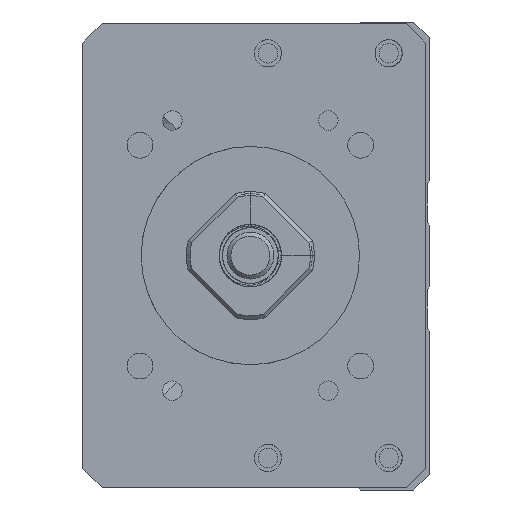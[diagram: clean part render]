
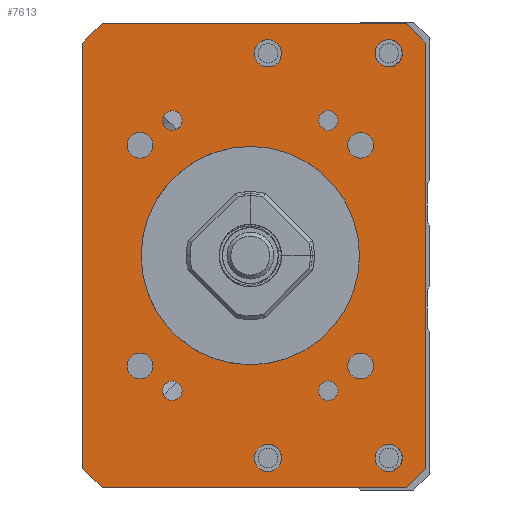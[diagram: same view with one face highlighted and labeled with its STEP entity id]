
A CAD part, left-side view. The second image highlights one B-rep face of the part: STEP entity #7613.
In plain terms, the highlighted planar face has unit normal (-1, 0, 0).
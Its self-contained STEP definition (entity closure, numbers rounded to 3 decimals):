
#4628=CIRCLE('',#15078,14.);
#4637=CIRCLE('',#15089,1.65);
#4638=CIRCLE('',#15090,1.65);
#4639=CIRCLE('',#15091,1.65);
#4640=CIRCLE('',#15092,1.65);
#4641=CIRCLE('',#15093,1.25);
#4642=CIRCLE('',#15094,1.75);
#4643=CIRCLE('',#15095,1.25);
#4644=CIRCLE('',#15096,1.75);
#4645=CIRCLE('',#15097,1.25);
#4646=CIRCLE('',#15098,1.75);
#4647=CIRCLE('',#15099,1.75);
#4648=CIRCLE('',#15100,1.25);
#5089=PLANE('',#15101);
#5990=LINE('',#19645,#6809);
#5992=LINE('',#19669,#6811);
#5993=LINE('',#19671,#6812);
#5994=LINE('',#19673,#6813);
#5995=LINE('',#19675,#6814);
#5996=LINE('',#19677,#6815);
#5997=LINE('',#19679,#6816);
#5998=LINE('',#19681,#6817);
#6809=VECTOR('',#16634,1.);
#6811=VECTOR('',#16658,1.);
#6812=VECTOR('',#16659,1.);
#6813=VECTOR('',#16660,1.);
#6814=VECTOR('',#16661,1.);
#6815=VECTOR('',#16662,1.);
#6816=VECTOR('',#16663,1.);
#6817=VECTOR('',#16664,1.);
#7613=ADVANCED_FACE('',(#8398,#8399,#8400,#8401,#8402,#8403,#8404,#8405,
#8406,#8407,#8408,#8409,#8410,#8411),#5089,.F.);
#8398=FACE_BOUND('',#8943,.T.);
#8399=FACE_BOUND('',#8944,.T.);
#8400=FACE_BOUND('',#8945,.T.);
#8401=FACE_BOUND('',#8946,.T.);
#8402=FACE_BOUND('',#8947,.T.);
#8403=FACE_BOUND('',#8948,.T.);
#8404=FACE_BOUND('',#8949,.T.);
#8405=FACE_BOUND('',#8950,.T.);
#8406=FACE_BOUND('',#8951,.T.);
#8407=FACE_BOUND('',#8952,.T.);
#8408=FACE_BOUND('',#8953,.T.);
#8409=FACE_BOUND('',#8954,.T.);
#8410=FACE_BOUND('',#8955,.T.);
#8411=FACE_BOUND('',#8956,.T.);
#8943=EDGE_LOOP('',(#10308));
#8944=EDGE_LOOP('',(#10309));
#8945=EDGE_LOOP('',(#10310));
#8946=EDGE_LOOP('',(#10311));
#8947=EDGE_LOOP('',(#10312));
#8948=EDGE_LOOP('',(#10313));
#8949=EDGE_LOOP('',(#10314));
#8950=EDGE_LOOP('',(#10315));
#8951=EDGE_LOOP('',(#10316));
#8952=EDGE_LOOP('',(#10317,#10318,#10319,#10320,#10321,#10322,#10323,#10324));
#8953=EDGE_LOOP('',(#10325));
#8954=EDGE_LOOP('',(#10326));
#8955=EDGE_LOOP('',(#10327));
#8956=EDGE_LOOP('',(#10328));
#10308=ORIENTED_EDGE('',*,*,#13687,.F.);
#10309=ORIENTED_EDGE('',*,*,#13688,.F.);
#10310=ORIENTED_EDGE('',*,*,#13689,.F.);
#10311=ORIENTED_EDGE('',*,*,#13690,.F.);
#10312=ORIENTED_EDGE('',*,*,#13691,.F.);
#10313=ORIENTED_EDGE('',*,*,#13692,.T.);
#10314=ORIENTED_EDGE('',*,*,#13693,.F.);
#10315=ORIENTED_EDGE('',*,*,#13694,.F.);
#10316=ORIENTED_EDGE('',*,*,#13695,.F.);
#10317=ORIENTED_EDGE('',*,*,#13684,.T.);
#10318=ORIENTED_EDGE('',*,*,#13696,.T.);
#10319=ORIENTED_EDGE('',*,*,#13697,.F.);
#10320=ORIENTED_EDGE('',*,*,#13698,.T.);
#10321=ORIENTED_EDGE('',*,*,#13699,.F.);
#10322=ORIENTED_EDGE('',*,*,#13700,.T.);
#10323=ORIENTED_EDGE('',*,*,#13701,.T.);
#10324=ORIENTED_EDGE('',*,*,#13702,.T.);
#10325=ORIENTED_EDGE('',*,*,#13703,.F.);
#10326=ORIENTED_EDGE('',*,*,#13704,.F.);
#10327=ORIENTED_EDGE('',*,*,#13705,.F.);
#10328=ORIENTED_EDGE('',*,*,#13664,.F.);
#12590=VERTEX_POINT('',#19568);
#12610=VERTEX_POINT('',#19644);
#12611=VERTEX_POINT('',#19646);
#12613=VERTEX_POINT('',#19652);
#12614=VERTEX_POINT('',#19654);
#12615=VERTEX_POINT('',#19656);
#12616=VERTEX_POINT('',#19658);
#12617=VERTEX_POINT('',#19660);
#12618=VERTEX_POINT('',#19662);
#12619=VERTEX_POINT('',#19664);
#12620=VERTEX_POINT('',#19666);
#12621=VERTEX_POINT('',#19668);
#12622=VERTEX_POINT('',#19670);
#12623=VERTEX_POINT('',#19672);
#12624=VERTEX_POINT('',#19674);
#12625=VERTEX_POINT('',#19676);
#12626=VERTEX_POINT('',#19678);
#12627=VERTEX_POINT('',#19680);
#12628=VERTEX_POINT('',#19683);
#12629=VERTEX_POINT('',#19685);
#12630=VERTEX_POINT('',#19687);
#13664=EDGE_CURVE('',#12590,#12590,#4628,.T.);
#13684=EDGE_CURVE('',#12611,#12610,#5990,.T.);
#13687=EDGE_CURVE('',#12613,#12613,#4637,.T.);
#13688=EDGE_CURVE('',#12614,#12614,#4638,.T.);
#13689=EDGE_CURVE('',#12615,#12615,#4639,.T.);
#13690=EDGE_CURVE('',#12616,#12616,#4640,.T.);
#13691=EDGE_CURVE('',#12617,#12617,#4641,.T.);
#13692=EDGE_CURVE('',#12618,#12618,#4642,.T.);
#13693=EDGE_CURVE('',#12619,#12619,#4643,.T.);
#13694=EDGE_CURVE('',#12620,#12620,#4644,.T.);
#13695=EDGE_CURVE('',#12621,#12621,#4645,.T.);
#13696=EDGE_CURVE('',#12610,#12622,#5992,.T.);
#13697=EDGE_CURVE('',#12623,#12622,#5993,.T.);
#13698=EDGE_CURVE('',#12623,#12624,#5994,.T.);
#13699=EDGE_CURVE('',#12625,#12624,#5995,.T.);
#13700=EDGE_CURVE('',#12625,#12626,#5996,.T.);
#13701=EDGE_CURVE('',#12626,#12627,#5997,.T.);
#13702=EDGE_CURVE('',#12627,#12611,#5998,.T.);
#13703=EDGE_CURVE('',#12628,#12628,#4646,.T.);
#13704=EDGE_CURVE('',#12629,#12629,#4647,.T.);
#13705=EDGE_CURVE('',#12630,#12630,#4648,.T.);
#15078=AXIS2_PLACEMENT_3D('',#19567,#16608,#16609);
#15089=AXIS2_PLACEMENT_3D('',#19651,#16640,#16641);
#15090=AXIS2_PLACEMENT_3D('',#19653,#16642,#16643);
#15091=AXIS2_PLACEMENT_3D('',#19655,#16644,#16645);
#15092=AXIS2_PLACEMENT_3D('',#19657,#16646,#16647);
#15093=AXIS2_PLACEMENT_3D('',#19659,#16648,#16649);
#15094=AXIS2_PLACEMENT_3D('',#19661,#16650,#16651);
#15095=AXIS2_PLACEMENT_3D('',#19663,#16652,#16653);
#15096=AXIS2_PLACEMENT_3D('',#19665,#16654,#16655);
#15097=AXIS2_PLACEMENT_3D('',#19667,#16656,#16657);
#15098=AXIS2_PLACEMENT_3D('',#19682,#16665,#16666);
#15099=AXIS2_PLACEMENT_3D('',#19684,#16667,#16668);
#15100=AXIS2_PLACEMENT_3D('',#19686,#16669,#16670);
#15101=AXIS2_PLACEMENT_3D('',#19688,#16671,#16672);
#16608=DIRECTION('',(-1.,0.,0.));
#16609=DIRECTION('',(0.,1.,0.));
#16634=DIRECTION('',(0.,0.,-1.));
#16640=DIRECTION('',(-1.,0.,0.));
#16641=DIRECTION('',(0.,0.,1.));
#16642=DIRECTION('',(-1.,0.,0.));
#16643=DIRECTION('',(0.,0.,1.));
#16644=DIRECTION('',(-1.,0.,0.));
#16645=DIRECTION('',(0.,0.,1.));
#16646=DIRECTION('',(-1.,0.,0.));
#16647=DIRECTION('',(0.,0.,1.));
#16648=DIRECTION('',(-1.,0.,0.));
#16649=DIRECTION('',(0.,1.,0.));
#16650=DIRECTION('',(1.,0.,0.));
#16651=DIRECTION('',(0.,0.,1.));
#16652=DIRECTION('',(-1.,0.,0.));
#16653=DIRECTION('',(0.,1.,0.));
#16654=DIRECTION('',(-1.,0.,0.));
#16655=DIRECTION('',(0.,0.,1.));
#16656=DIRECTION('',(-1.,0.,0.));
#16657=DIRECTION('',(0.,1.,0.));
#16658=DIRECTION('',(0.,-0.707,-0.707));
#16659=DIRECTION('',(0.,1.,0.));
#16660=DIRECTION('',(0.,-0.707,0.707));
#16661=DIRECTION('',(0.,0.,-1.));
#16662=DIRECTION('',(0.,0.707,0.707));
#16663=DIRECTION('',(0.,1.,0.));
#16664=DIRECTION('',(0.,0.707,-0.707));
#16665=DIRECTION('',(-1.,0.,0.));
#16666=DIRECTION('',(0.,0.,1.));
#16667=DIRECTION('',(-1.,0.,0.));
#16668=DIRECTION('',(0.,0.,1.));
#16669=DIRECTION('',(-1.,0.,0.));
#16670=DIRECTION('',(0.,1.,0.));
#16671=DIRECTION('',(1.,0.,0.));
#16672=DIRECTION('',(0.,-1.,0.));
#19567=CARTESIAN_POINT('',(-211.,0.,-200.));
#19568=CARTESIAN_POINT('',(-211.,14.,-200.));
#19644=CARTESIAN_POINT('',(-211.,21.499,-227.25));
#19645=CARTESIAN_POINT('',(-211.,21.499,-170.25));
#19646=CARTESIAN_POINT('',(-211.,21.499,-172.75));
#19651=CARTESIAN_POINT('',(-211.,14.142,-185.858));
#19652=CARTESIAN_POINT('',(-211.,14.142,-184.208));
#19653=CARTESIAN_POINT('',(-211.,-14.142,-185.858));
#19654=CARTESIAN_POINT('',(-211.,-14.142,-184.208));
#19655=CARTESIAN_POINT('',(-211.,14.142,-214.142));
#19656=CARTESIAN_POINT('',(-211.,14.142,-212.492));
#19657=CARTESIAN_POINT('',(-211.,-14.142,-214.142));
#19658=CARTESIAN_POINT('',(-211.,-14.142,-212.492));
#19659=CARTESIAN_POINT('',(-211.,-10.,-217.321));
#19660=CARTESIAN_POINT('',(-211.,-8.75,-217.321));
#19661=CARTESIAN_POINT('',(-211.,-2.25,-225.936));
#19662=CARTESIAN_POINT('',(-211.,-2.25,-224.186));
#19663=CARTESIAN_POINT('',(-211.,10.,-182.679));
#19664=CARTESIAN_POINT('',(-211.,11.25,-182.679));
#19665=CARTESIAN_POINT('',(-211.,-2.25,-174.064));
#19666=CARTESIAN_POINT('',(-211.,-2.25,-172.314));
#19667=CARTESIAN_POINT('',(-211.,10.,-217.321));
#19668=CARTESIAN_POINT('',(-211.,11.25,-217.321));
#19669=CARTESIAN_POINT('',(-211.,18.999,-229.75));
#19670=CARTESIAN_POINT('',(-211.,18.999,-229.75));
#19671=CARTESIAN_POINT('',(-211.,-22.501,-229.75));
#19672=CARTESIAN_POINT('',(-211.,-20.001,-229.75));
#19673=CARTESIAN_POINT('',(-211.,-22.501,-227.25));
#19674=CARTESIAN_POINT('',(-211.,-22.501,-227.25));
#19675=CARTESIAN_POINT('',(-211.,-22.501,-170.25));
#19676=CARTESIAN_POINT('',(-211.,-22.501,-172.75));
#19677=CARTESIAN_POINT('',(-211.,-22.501,-172.75));
#19678=CARTESIAN_POINT('',(-211.,-20.001,-170.25));
#19679=CARTESIAN_POINT('',(-211.,-22.501,-170.25));
#19680=CARTESIAN_POINT('',(-211.,18.999,-170.25));
#19681=CARTESIAN_POINT('',(-211.,18.999,-170.25));
#19682=CARTESIAN_POINT('',(-211.,-17.75,-174.064));
#19683=CARTESIAN_POINT('',(-211.,-17.75,-172.314));
#19684=CARTESIAN_POINT('',(-211.,-17.75,-225.936));
#19685=CARTESIAN_POINT('',(-211.,-17.75,-224.186));
#19686=CARTESIAN_POINT('',(-211.,-10.,-182.679));
#19687=CARTESIAN_POINT('',(-211.,-8.75,-182.679));
#19688=CARTESIAN_POINT('',(-211.,-22.501,-170.25));
